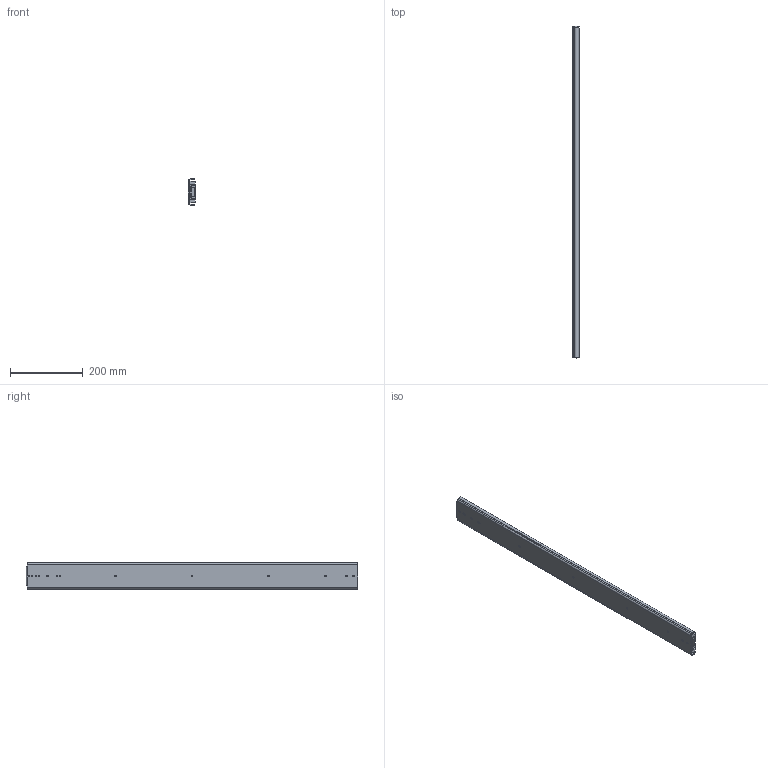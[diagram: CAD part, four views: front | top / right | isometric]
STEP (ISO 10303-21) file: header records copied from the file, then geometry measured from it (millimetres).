
FILE_DESCRIPTION(/* description */ ('Unknown'),/* implementation_level */ '2;1');
FILE_NAME(/* name */ '76J01-36 close',/* time_stamp */ '2024-07-26T16:13:33+08:00',/* author */ ('Unknown'),/* organization */ ('Unknown'),/* preprocessor_version */ 'ST-DEVELOPER v18.104',/* originating_system */ 'Solid Edge',/* authorisation */ 'Unknown');
FILE_SCHEMA (('AUTOMOTIVE_DESIGN {1 0 10303 214 3 1 1}'));
Length unit declared in the file: millimetre
Products named in the file (4): 76J01-36 close; 76J01 36 inch ¤ºditional)_Taiwan.950; 76J01 36 ｦT倶ｸｭ.par:1; 76J01 36 吋
Assembly tree (3 placements, depth 2):
  76J01-36 close
    76J01 36 inch ¤ºditional)_Taiwan.950
    76J01 36 ｦT倶ｸｭ.par:1
    76J01 36 吋
Bounding box: 19.3 x 914.4 x 76.76 mm (x, y, z)
Volume: 718773.3 mm3; surface area: 447590.6 mm2
Topology: 3 solids, 3 shells, 193 faces, 595 edges, 402 vertices
Faces by surface type: plane 104, cylinder 89
Full cylindrical faces by diameter (mm): 5.2 x14, 7.1 x2
Entity records: 7062 total; most frequent: CARTESIAN_POINT 1149, DIRECTION 1135, ORIENTED_EDGE 1126, EDGE_CURVE 563, VERTEX_POINT 386, LINE 383, VECTOR 383, AXIS2_PLACEMENT_3D 376
